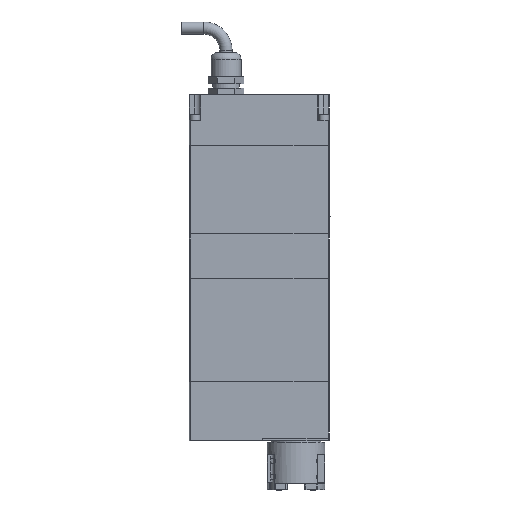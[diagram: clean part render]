
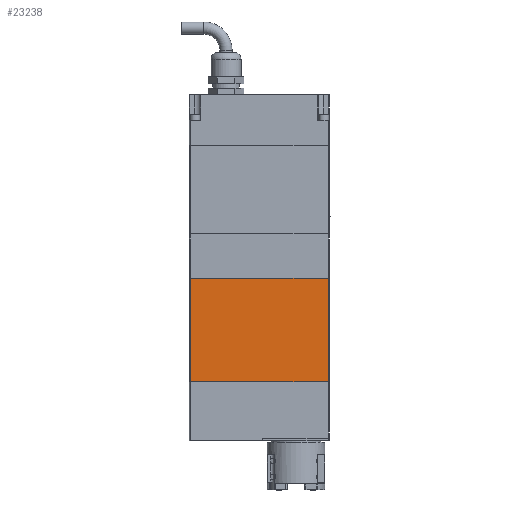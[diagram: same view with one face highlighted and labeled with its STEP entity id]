
A CAD part, front view. The second image highlights one B-rep face of the part: STEP entity #23238.
In plain terms, the highlighted planar face has unit normal (0, -1, 0) as drawn and (-1, 0, 0) by its records, which use the part's own axes.
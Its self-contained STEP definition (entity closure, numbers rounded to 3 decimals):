
#128 = VERTEX_POINT ( 'NONE', #18157 ) ;
#677 = FACE_OUTER_BOUND ( 'NONE', #2667, .T. ) ;
#1159 = ORIENTED_EDGE ( 'NONE', *, *, #19804, .F. ) ;
#1615 = VECTOR ( 'NONE', #19294, 1000. ) ;
#2060 = PLANE ( 'NONE',  #11662 ) ;
#2667 = EDGE_LOOP ( 'NONE', ( #16634, #1159, #3499, #15437 ) ) ;
#2668 = CARTESIAN_POINT ( 'NONE',  ( -13., -14.5, 60.5 ) ) ;
#3091 = CARTESIAN_POINT ( 'NONE',  ( -13., 15., 60.5 ) ) ;
#3237 = CARTESIAN_POINT ( 'NONE',  ( -13., -14.5, 60.5 ) ) ;
#3499 = ORIENTED_EDGE ( 'NONE', *, *, #16355, .F. ) ;
#4928 = LINE ( 'NONE', #3091, #19910 ) ;
#6461 = VERTEX_POINT ( 'NONE', #3237 ) ;
#7554 = LINE ( 'NONE', #21622, #17558 ) ;
#8510 = VECTOR ( 'NONE', #22213, 1000. ) ;
#11320 = DIRECTION ( 'NONE',  ( 0., 1., 0. ) ) ;
#11662 = AXIS2_PLACEMENT_3D ( 'NONE', #21777, #12287, #17584 ) ;
#12224 = LINE ( 'NONE', #24249, #8510 ) ;
#12287 = DIRECTION ( 'NONE',  ( 1., 0., 0. ) ) ;
#14004 = EDGE_CURVE ( 'NONE', #6461, #14304, #17226, .T. ) ;
#14304 = VERTEX_POINT ( 'NONE', #16753 ) ;
#14826 = CARTESIAN_POINT ( 'NONE',  ( -13., 47.5, 60.5 ) ) ;
#15437 = ORIENTED_EDGE ( 'NONE', *, *, #20055, .F. ) ;
#16355 = EDGE_CURVE ( 'NONE', #128, #19557, #12224, .T. ) ;
#16634 = ORIENTED_EDGE ( 'NONE', *, *, #14004, .F. ) ;
#16753 = CARTESIAN_POINT ( 'NONE',  ( -13., -14.5, 14. ) ) ;
#17226 = LINE ( 'NONE', #2668, #1615 ) ;
#17558 = VECTOR ( 'NONE', #11320, 1000. ) ;
#17584 = DIRECTION ( 'NONE',  ( 0., 0., -1. ) ) ;
#18157 = CARTESIAN_POINT ( 'NONE',  ( -13., 47.5, 14. ) ) ;
#19294 = DIRECTION ( 'NONE',  ( 0., 0., -1. ) ) ;
#19557 = VERTEX_POINT ( 'NONE', #14826 ) ;
#19804 = EDGE_CURVE ( 'NONE', #19557, #6461, #4928, .T. ) ;
#19910 = VECTOR ( 'NONE', #20871, 1000. ) ;
#20055 = EDGE_CURVE ( 'NONE', #14304, #128, #7554, .T. ) ;
#20871 = DIRECTION ( 'NONE',  ( 0., -1., 0. ) ) ;
#21622 = CARTESIAN_POINT ( 'NONE',  ( -13., 15., 14. ) ) ;
#21777 = CARTESIAN_POINT ( 'NONE',  ( -13., 15., 60.5 ) ) ;
#22213 = DIRECTION ( 'NONE',  ( 0., 0., 1. ) ) ;
#23238 = ADVANCED_FACE ( 'NONE', ( #677 ), #2060, .F. ) ;
#24249 = CARTESIAN_POINT ( 'NONE',  ( -13., 47.5, 60.5 ) ) ;
